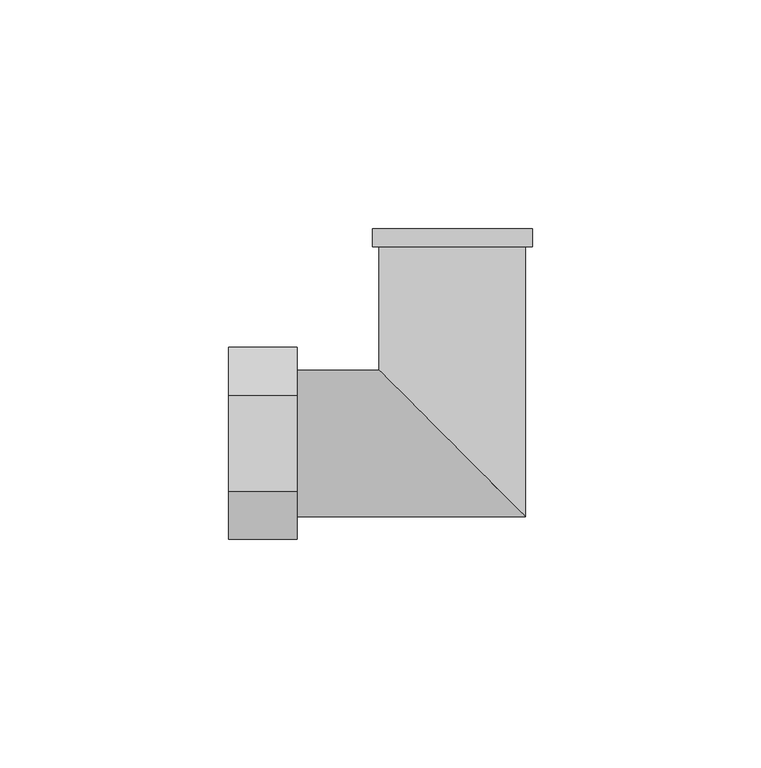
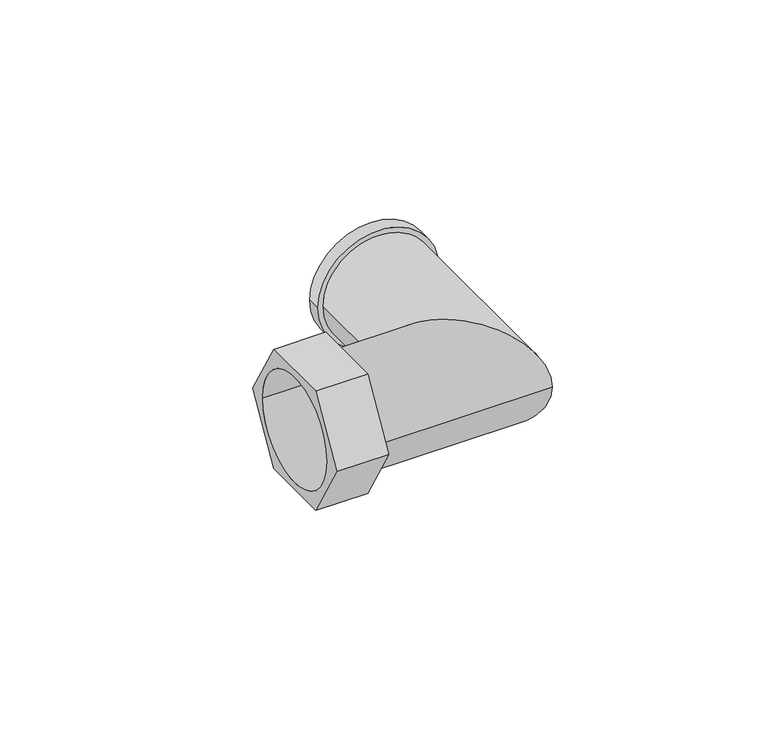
"""IFC4 building model written with IfcOpenShell, lengths in millimetres: pipe fitting geometry, БИР ПЕКС_КМП_Угольник_Резьба_Наружная : Угольник с наружной резьбой_КМП."""

from ifc_helpers import new_model, si_unit, point, frame, origin, origin_2d, place, context, project, spatial, polyline, circle_curve, ellipse_curve, trimmed, segment, composite_curve, outline, extrude, source, transform, mapped, element, save
from ifc_brep_helpers import plane_surface, cylinder_surface, revolved_surface, advanced_brep


def pipe_fitting_f7e817d6(model_context):
    return source(origin(), model_context, "Body", "SolidModel", [
        extrude(outline(polyline([(-10.5, -18.1865335), (-21.0, 0.0), (-10.5, 18.1865335), (10.5, 18.1865335), (21.0, 0.0), (10.5, -18.1865335), (-10.5, -18.1865335)]), holes=[composite_curve([segment(trimmed(circle_curve(origin_2d(), 16.0), [point((-16.0, 0.0))], [point((16.0, 0.0))], True, "CARTESIAN"), True, "CONTINUOUS"), segment(trimmed(circle_curve(origin_2d(), 16.0), [point((16.0, 0.0))], [point((-16.0, 0.0))], True, "CARTESIAN"), True, "CONTINUOUS")], self_intersect=False)]), frame((-49.0, 0.0, 0.0), z_axis=(1.0, 0.0, 0.0), x_axis=(0.0, 1.0, 0.0)), (0.0, 0.0, 1.0), 15.0),
        advanced_brep(
        [(-34.0, -16.0, 0.0), (-34.0, 16.0, 0.0), (-34.0, -15.5, 0.0), (-34.0, 15.5, 0.0), (16.0, -16.0, 0.0), (-16.0, 16.0, 0.0), (-17.5, 47.0, 0.0), (17.5, 47.0, 0.0), (15.5, 47.0, 0.0), (-15.5, 47.0, 0.0), (16.0, 43.0, 0.0), (-16.0, 43.0, 0.0), (-17.5, 43.0, 0.0), (17.5, 43.0, 0.0), (15.5, -15.5, 0.0), (-15.5, 15.5, 0.0), (-15.5, 43.0, 0.0), (15.5, 43.0, 0.0)],
        [
            (0, 1, circle_curve(frame((-34.0, 0.0, 0.0), z_axis=(-1.0, 0.0, 0.0), x_axis=(0.0, 1.0, 0.0)), 16.0)),
            (1, 0, circle_curve(frame((-34.0, 0.0, 0.0), z_axis=(-1.0, 0.0, 0.0), x_axis=(0.0, 1.0, 0.0)), 16.0)),
            (2, 3, circle_curve(frame((-34.0, 0.0, 0.0), z_axis=(1.0, 0.0, 0.0), x_axis=(0.0, 1.0, 0.0)), 15.5)),
            (3, 2, circle_curve(frame((-34.0, 0.0, 0.0), z_axis=(1.0, 0.0, 0.0), x_axis=(0.0, 1.0, 0.0)), 15.5)),
            (0, 4),
            (4, 5, ellipse_curve(frame((0.0, 0.0, 0.0), z_axis=(-0.7071067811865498, -0.7071067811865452, 0.0), x_axis=(-0.7071067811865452, 0.7071067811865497, 0.0)), 22.627417, 16.0)),
            (5, 1),
            (5, 4, ellipse_curve(frame((0.0, 0.0, 0.0), z_axis=(-0.7071067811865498, -0.7071067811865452, 0.0), x_axis=(-0.7071067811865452, 0.7071067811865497, 0.0)), 22.627417, 16.0)),
            (6, 7, circle_curve(frame((0.0, 47.0, 0.0), z_axis=(0.0, 1.0, 0.0), x_axis=(1.0, 0.0, 0.0)), 17.5)),
            (7, 6, circle_curve(frame((0.0, 47.0, 0.0), z_axis=(0.0, 1.0, 0.0), x_axis=(1.0, 0.0, 0.0)), 17.5)),
            (8, 9, circle_curve(frame((0.0, 47.0, 0.0), z_axis=(0.0, -1.0, 0.0), x_axis=(-1.0, 0.0, 0.0)), 15.5)),
            (9, 8, circle_curve(frame((0.0, 47.0, 0.0), z_axis=(0.0, -1.0, 0.0), x_axis=(-1.0, 0.0, 0.0)), 15.5)),
            (4, 10),
            (10, 11, circle_curve(frame((0.0, 43.0, 0.0), z_axis=(0.0, -1.0, 0.0), x_axis=(-1.0, 0.0, 0.0)), 16.0)),
            (11, 5),
            (11, 10, circle_curve(frame((0.0, 43.0, 0.0), z_axis=(0.0, -1.0, 0.0), x_axis=(-1.0, 0.0, 0.0)), 16.0)),
            (12, 13, circle_curve(frame((0.0, 43.0, 0.0), z_axis=(0.0, -1.0, 0.0), x_axis=(1.0, 0.0, 0.0)), 17.5)),
            (13, 12, circle_curve(frame((0.0, 43.0, 0.0), z_axis=(0.0, -1.0, 0.0), x_axis=(1.0, 0.0, 0.0)), 17.5)),
            (12, 6),
            (7, 13),
            (2, 14),
            (14, 15, ellipse_curve(frame((0.0, 0.0, 0.0), z_axis=(0.7071067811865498, 0.7071067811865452, 0.0), x_axis=(0.7071067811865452, -0.7071067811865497, 0.0)), 21.9203102, 15.5)),
            (15, 3),
            (15, 14, ellipse_curve(frame((0.0, 0.0, 0.0), z_axis=(0.7071067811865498, 0.7071067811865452, 0.0), x_axis=(0.7071067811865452, -0.7071067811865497, 0.0)), 21.9203102, 15.5)),
            (9, 16),
            (16, 15),
            (14, 17),
            (17, 8),
        ],
        [
            plane_surface(frame((-34.0, 0.0, 0.0), z_axis=(-1.0, 0.0, 0.0), x_axis=(0.0, 0.0, 1.0))),
            cylinder_surface(frame((-34.0, 0.0, 0.0), z_axis=(-1.0, 0.0, 0.0), x_axis=(0.0, 1.0, 0.0)), 16.0),
            plane_surface(frame((0.0, 47.0, 0.0), z_axis=(0.0, 1.0, 0.0), x_axis=(0.0, 0.0, 1.0))),
            cylinder_surface(frame((0.0, 0.0, 0.0), z_axis=(0.0, -1.0, 0.0), x_axis=(-1.0, 0.0, 0.0)), 16.0),
            plane_surface(frame((17.5, 43.0, 0.0), z_axis=(0.0, -1.0, 0.0), x_axis=(0.0, 0.0, 1.0))),
            cylinder_surface(frame((0.0, 47.0, 0.0), z_axis=(0.0, -1.0, 0.0), x_axis=(1.0, 0.0, 0.0)), 17.5),
            revolved_surface(polyline([(15.5, 15.5, 0.0), (-34.0, 15.5, 0.0)]), (-34.0, 0.0, 0.0), (1.0, 0.0, 0.0)),
            revolved_surface(polyline([(-15.5, 47.0, 0.0), (-15.5, -15.5, 0.0)]), (0.0, 0.0, 0.0), (0.0, 1.0, 0.0)),
        ],
        [
            (0, [[1, 2], [3, 4]]),
            (1, [[-1, 5, 6, 7]]),
            (1, [[-2, -7, 8, -5]]),
            (2, [[9, 10], [11, 12]]),
            (3, [[-6, 13, 14, 15]]),
            (3, [[-8, -15, 16, -13]]),
            (4, [[17, 18], [-14, -16]]),
            (5, [[-17, 19, -10, 20]]),
            (5, [[-18, -20, -9, -19]]),
            (6, [[-3, 21, 22, 23]]),
            (6, [[-4, -23, 24, -21]]),
            (7, [[-12, 25, 26, -22, 27, 28]]),
            (7, [[-11, -28, -27, -24, -26, -25]]),
        ],
    ),
    ])


if __name__ == "__main__":
    model = new_model("IFC4")
    model_context = context("Model", 3, world=origin())
    ifc_project = project(units=[si_unit("LENGTHUNIT", "METRE", prefix="MILLI")], contexts=[model_context])
    site = spatial("IfcSite", under=ifc_project)
    building = spatial("IfcBuilding", under=site)
    placement = place(None, origin())
    pipe_fitting_shape = pipe_fitting_f7e817d6(model_context)
    element("IfcPipeFitting", 1, ObjectType="БИР ПЕКС_КМП_Угольник_Резьба_Наружная : Угольник с наружной резьбой_КМП", at=placement, inside=building, context=model_context, shape_type="MappedRepresentation", body=[
        mapped(pipe_fitting_shape, transform((0.0, 0.0, 0.0), x_axis=(1.0, 0.0, 0.0), y_axis=(0.0, 1.0, 0.0), z_axis=(0.0, 0.0, 1.0))),
    ])
    save(model, "model.ifc")
